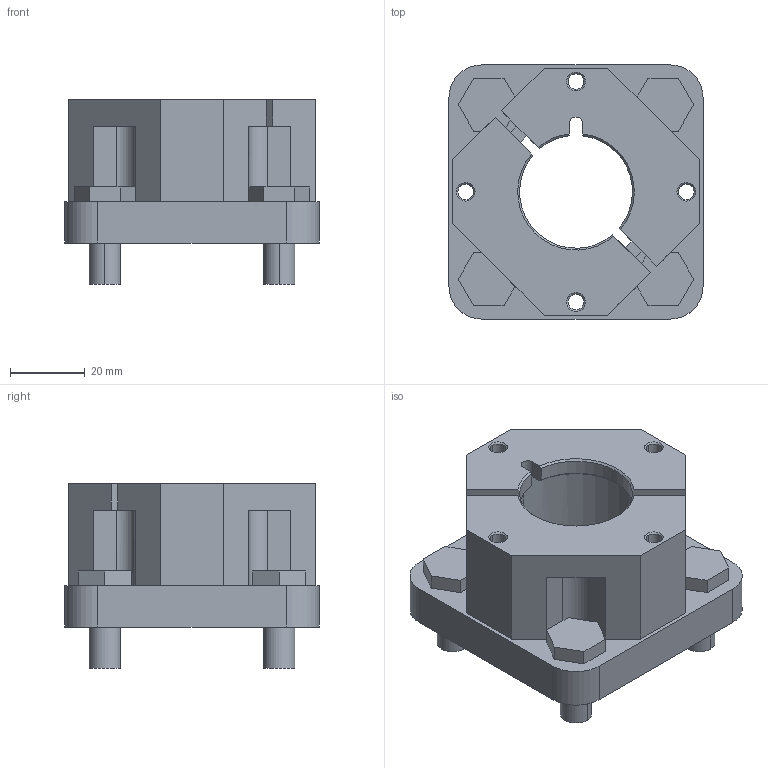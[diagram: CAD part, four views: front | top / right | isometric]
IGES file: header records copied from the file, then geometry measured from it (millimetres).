
Start section:  PTC IGES file: 1827001506\1827001506.iges
Global section: file name: 1827001506\1827001506.iges; native system: Creo Parametric by PTC Inc.; preprocessor: 2020044; author: THD3HC; organization: Unknown; date: 20231027.113957; units: millimetre
Bounding box: 68 x 68 x 49.3 mm (x, y, z)
Surface area: 25710.3 mm2 (no closed solid volume)
Topology: 0 solids, 0 shells, 131 faces, 698 edges, 698 vertices
Faces by surface type: bspline 79, revolution 52
